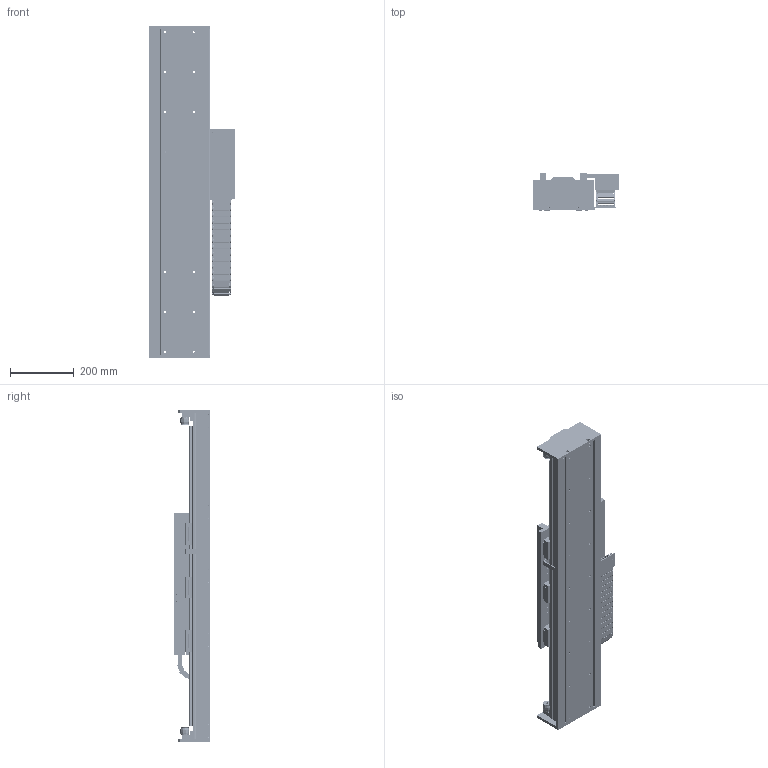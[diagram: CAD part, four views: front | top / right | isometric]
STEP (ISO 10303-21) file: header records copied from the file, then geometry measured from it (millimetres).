
FILE_DESCRIPTION (( 'STEP AP203' ), '1' );
FILE_NAME ('STF50380C-xC1B-Axx.STEP', '2007-10-29T14:48:59', ( 'Yaskawa' ), ( 'Yaskawa' ), 'SwSTEP 2.0', 'SolidWorks 2007', '' );
FILE_SCHEMA (( 'CONFIG_CONTROL_DESIGN' ));
Length unit declared in the file: millimetre
Products named in the file (59): 07.50.038.0_22; SSR20 Rail 820_940; 07.50.038.0_29; 07.50.038.0_30; STF50-001B F50-380 Carriage; STF50-004 Flag; STCM-002-R2 Cable Assembly Front; STCM-003 Cable Assembly Bottom; STCM-004 Cable Assembly Side; STCM-005-R1 Cable Assembly Cover; B18.3.1M - 5 x 0.8 x 12 Hex SHCS -- 12NHX_B18.3.1M - 5 x 0.8 x 12 Hex SHCS -- 12NHX; B18.3.1M - 6 x 1.0 x 25 Hex SHCS -- 25NHX_B18.3.1M - 6 x 1.0 x 25 Hex SHCS -- 25NHX; B18.3.4M - 3 x 0.5 x 12 SBHCS --N_B18.3.4M - 3 x 0.5 x 12 SBHCS --N; B18.3.5M - 3 x 0.5 x 12 Socket FCHS  -- 12N_B18.3.5M - 3 x 0.5 x 12 Socket FCHS  -- 12N; STF50200D; 07.50.038.0_20; 07.50.038.0_27; 07.50.038.0_28; 07.50.038.0_23; 07.50.038.0_24; 07.50.038.0_25; 07.50.038.0_26; 07.50.038.0_33; 07.50.038.0_34; 07.50.038.0_35; 07.50.038.0_36; 07.50.038.0_39; 07.50.038.0_40; 07.50.038.0_41; 07.50.038.0_43; 07.50.038.0_42; 07.50.038.0_44; 07.50.038.0_45; 07.50.038.0_46; 07.50.038.0_47; 07.50.038.0_32; 07.50.038.0_31; STCM-R1; STF50-380 Complete Carriage; SGLFM-50945AC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
Assembly tree (124 placements, depth 4):
  STF50380C-xC1B-Axx
    STF50 Large End Stop  x4
      STF50-007 End Stop
      Large Bumper
    SSR20 Rail 820_940  x2
    STF50-006 Endplate  x2
    STF50200D
      07.50.038.0_20
      07.50.038.0_26
      07.50.038.0_24
      07.50.038.0_42
      07.50.038.0_22
      07.50.038.0_40
      07.50.038.0_43
      07.50.038.0_30
      07.50.038.0_37
      07.50.038.0_46
      07.50.038.0_32  x5
      07.50.038.0_27
      07.50.038.0_28
      07.50.038.0_47
      07.50.038.0_29
      07.50.038.0_39
      07.50.038.0_34
      07.50.038.0_41
      07.50.038.0_33
      07.50.038.0_25
      07.50.038.0_35
      07.50.038.0_38
      07.50.038.0_23
      07.50.038.0_31  x3
      07.50.038.0_36
      07.50.038.0_21
      07.50.038.0_44
      07.50.038.0_45
    STCM-007 Lower E-Chain Bracket
    STF50-380 Complete Carriage
      STF50-005-R2 Cable Router
      B18.3.1M - 5 x 0.8 x 12 Hex SHCS -- 12NHX_B18.3.1M - 5 x 0.8 x 12 Hex SHCS -- 12NHX  x34
      B18.3.1M - 6 x 1.0 x 25 Hex SHCS -- 25NHX_B18.3.1M - 6 x 1.0 x 25 Hex SHCS -- 25NHX  x10
      STF50-001B F50-380 Carriage
      STF50-003 Renishaw Encoder Bracket
      B18.3.4M - 3 x 0.5 x 12 SBHCS --N_B18.3.4M - 3 x 0.5 x 12 SBHCS --N  x3
      B18.3.5M - 3 x 0.5 x 12 Socket FCHS  -- 12N_B18.3.5M - 3 x 0.5 x 12 Socket FCHS  -- 12N  x6
      SSR20W Block  x6
      STF50-0028-R1 F50-380 Carriage Horn  x2
      STF50-004 Flag
      SGLFW-50A380AP
      RGH22B
      STCM-R1
        STCM-006-R1 Upper E-chain Bracket
        STCM-001-R2 Cable Bracket
        Serial Converter
        STCM-002-R2 Cable Assembly Front
        STCM-003 Cable Assembly Bottom
        STCM-004 Cable Assembly Side
        STCM-005-R1 Cable Assembly Cover
    STF50200 Base_STF50BM-004
    SGLFM-50945AC
Bounding box: 269.74 x 115.5 x 1039.05 mm (x, y, z)
Volume: 9974414.2 mm3; surface area: 2162294.1 mm2
Topology: 155 solids, 155 shells, 6551 faces, 16603 edges, 10417 vertices
Faces by surface type: plane 3362, cylinder 2367, cone 698, torus 110, bspline 8, sphere 6
Entity records: 134907 total; most frequent: DIRECTION 22538, CARTESIAN_POINT 22418, ORIENTED_EDGE 20952, EDGE_CURVE 10476, AXIS2_PLACEMENT_3D 7902, VERTEX_POINT 6864, VECTOR 6734, LINE 6734
